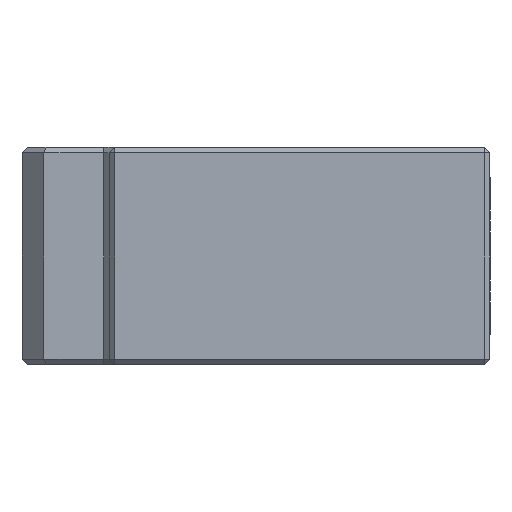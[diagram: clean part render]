
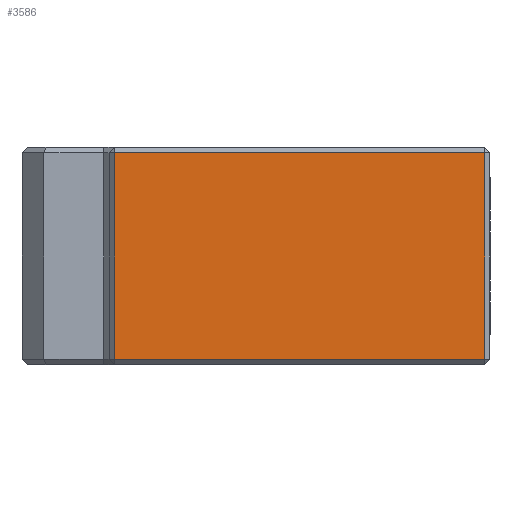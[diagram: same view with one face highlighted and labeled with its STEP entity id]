
A CAD part, left-side view. The second image highlights one B-rep face of the part: STEP entity #3586.
In plain terms, the highlighted planar face has unit normal (-1, 0, 0).
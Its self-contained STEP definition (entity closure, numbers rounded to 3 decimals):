
#202 = LINE ( 'NONE', #203, #2761 ) ;
#203 = CARTESIAN_POINT ( 'NONE',  ( -35., -25., -9.5 ) ) ;
#204 = DIRECTION ( 'NONE',  ( 0., -1., 0. ) ) ;
#205 = LINE ( 'NONE', #206, #3106 ) ;
#206 = CARTESIAN_POINT ( 'NONE',  ( -35., 9.5, 10. ) ) ;
#207 = DIRECTION ( 'NONE',  ( 0., 0., -1. ) ) ;
#208 = LINE ( 'NONE', #209, #2845 ) ;
#209 = CARTESIAN_POINT ( 'NONE',  ( -35., -24.5, 10. ) ) ;
#210 = DIRECTION ( 'NONE',  ( 0., 0., 1. ) ) ;
#211 = LINE ( 'NONE', #212, #2885 ) ;
#212 = CARTESIAN_POINT ( 'NONE',  ( -35., -25., 9.5 ) ) ;
#213 = DIRECTION ( 'NONE',  ( 0., 1., 0. ) ) ;
#1507 = CARTESIAN_POINT ( 'NONE',  ( -35., 9.5, 9.5 ) ) ;
#1508 = CARTESIAN_POINT ( 'NONE',  ( -35., 9.5, -9.5 ) ) ;
#1509 = CARTESIAN_POINT ( 'NONE',  ( -35., -24.5, -9.5 ) ) ;
#1510 = CARTESIAN_POINT ( 'NONE',  ( -35., -24.5, 9.5 ) ) ;
#1966 = ORIENTED_EDGE ( 'NONE', *, *, #3325, .T. ) ;
#1968 = ORIENTED_EDGE ( 'NONE', *, *, #3326, .T. ) ;
#1975 = ORIENTED_EDGE ( 'NONE', *, *, #3327, .T. ) ;
#1977 = ORIENTED_EDGE ( 'NONE', *, *, #3324, .T. ) ;
#2446 = VERTEX_POINT ( 'NONE', #1507 ) ;
#2447 = VERTEX_POINT ( 'NONE', #1508 ) ;
#2448 = VERTEX_POINT ( 'NONE', #1509 ) ;
#2449 = VERTEX_POINT ( 'NONE', #1510 ) ;
#2579 = EDGE_LOOP ( 'NONE', ( #1966, #1977, #1968, #1975 ) ) ;
#2659 = FACE_OUTER_BOUND ( 'NONE', #2579, .T. ) ;
#2761 = VECTOR ( 'NONE', #204, 1000. ) ;
#2823 = AXIS2_PLACEMENT_3D ( 'NONE', #4037, #4038, #4039 ) ;
#2845 = VECTOR ( 'NONE', #210, 1000. ) ;
#2885 = VECTOR ( 'NONE', #213, 1000. ) ;
#3106 = VECTOR ( 'NONE', #207, 1000. ) ;
#3324 = EDGE_CURVE ( 'NONE', #2447, #2448, #202, .T. ) ;
#3325 = EDGE_CURVE ( 'NONE', #2446, #2447, #205, .T. ) ;
#3326 = EDGE_CURVE ( 'NONE', #2448, #2449, #208, .T. ) ;
#3327 = EDGE_CURVE ( 'NONE', #2449, #2446, #211, .T. ) ;
#3586 = ADVANCED_FACE ( 'NONE', ( #2659 ), #4036, .F. ) ;
#4036 = PLANE ( 'NONE',  #2823 ) ;
#4037 = CARTESIAN_POINT ( 'NONE',  ( -35., -25., 10. ) ) ;
#4038 = DIRECTION ( 'NONE',  ( 1., 0., 0. ) ) ;
#4039 = DIRECTION ( 'NONE',  ( 0., 0., -1. ) ) ;
